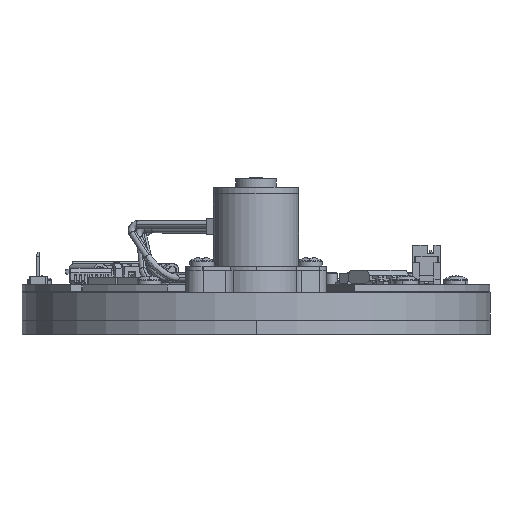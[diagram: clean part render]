
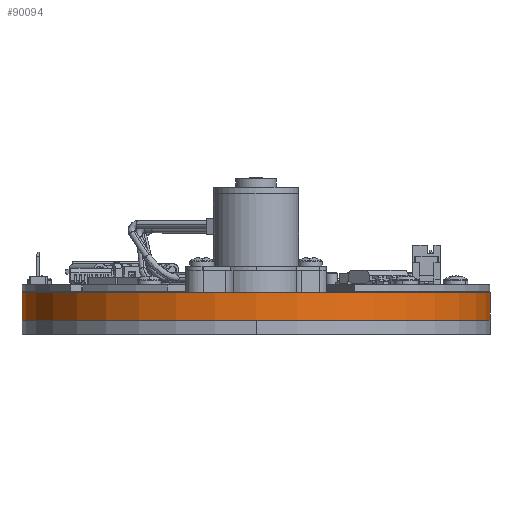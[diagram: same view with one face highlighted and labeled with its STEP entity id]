
A CAD part, front view. The second image highlights one B-rep face of the part: STEP entity #90094.
In plain terms, the highlighted cylindrical face has radius 28.575 mm (diameter 57.15 mm), a partial arc.
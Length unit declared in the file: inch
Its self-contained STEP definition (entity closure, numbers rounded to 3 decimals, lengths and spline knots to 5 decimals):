
#4684 = EDGE_CURVE ( 'NONE', #50985, #17854, #8240, .T. ) ;
#5385 = DIRECTION ( 'NONE',  ( 0., 0., -1. ) ) ;
#8240 = LINE ( 'NONE', #104184, #52264 ) ;
#10333 = CARTESIAN_POINT ( 'NONE',  ( 1.125, 0., 0.133 ) ) ;
#13154 = FACE_OUTER_BOUND ( 'NONE', #63200, .T. ) ;
#17854 = VERTEX_POINT ( 'NONE', #75512 ) ;
#20182 = CYLINDRICAL_SURFACE ( 'NONE', #71199, 1.125 ) ;
#22912 = LINE ( 'NONE', #69945, #64140 ) ;
#23866 = EDGE_CURVE ( 'NONE', #106659, #33614, #22912, .T. ) ;
#26372 = CARTESIAN_POINT ( 'NONE',  ( -1.125, 0., 0. ) ) ;
#28816 = DIRECTION ( 'NONE',  ( 0., 0., 1. ) ) ;
#29569 = ORIENTED_EDGE ( 'NONE', *, *, #76226, .F. ) ;
#33209 = ORIENTED_EDGE ( 'NONE', *, *, #4684, .F. ) ;
#33614 = VERTEX_POINT ( 'NONE', #101182 ) ;
#34094 = DIRECTION ( 'NONE',  ( 0., 0., -1. ) ) ;
#34830 = DIRECTION ( 'NONE',  ( 0., 0., -1. ) ) ;
#48261 = DIRECTION ( 'NONE',  ( 0., 0., 1. ) ) ;
#50985 = VERTEX_POINT ( 'NONE', #26372 ) ;
#52264 = VECTOR ( 'NONE', #48261, 39.37008 ) ;
#53205 = ORIENTED_EDGE ( 'NONE', *, *, #97988, .F. ) ;
#63200 = EDGE_LOOP ( 'NONE', ( #53205, #33209, #29569, #84394 ) ) ;
#64140 = VECTOR ( 'NONE', #5385, 39.37008 ) ;
#69945 = CARTESIAN_POINT ( 'NONE',  ( 1.125, 0., 0.0665 ) ) ;
#71199 = AXIS2_PLACEMENT_3D ( 'NONE', #81223, #34094, #95102 ) ;
#72226 = AXIS2_PLACEMENT_3D ( 'NONE', #75921, #28816, #89897 ) ;
#75512 = CARTESIAN_POINT ( 'NONE',  ( -1.125, 0., 0.133 ) ) ;
#75921 = CARTESIAN_POINT ( 'NONE',  ( 0., 0., 0.133 ) ) ;
#76226 = EDGE_CURVE ( 'NONE', #33614, #50985, #103155, .T. ) ;
#81223 = CARTESIAN_POINT ( 'NONE',  ( 0., 0., 0.133 ) ) ;
#81946 = DIRECTION ( 'NONE',  ( -1., 0., 0. ) ) ;
#83862 = AXIS2_PLACEMENT_3D ( 'NONE', #95826, #34830, #81946 ) ;
#84394 = ORIENTED_EDGE ( 'NONE', *, *, #23866, .F. ) ;
#89897 = DIRECTION ( 'NONE',  ( -1., 0., 0. ) ) ;
#90094 = ADVANCED_FACE ( 'NONE', ( #13154 ), #20182, .T. ) ;
#91578 = CIRCLE ( 'NONE', #72226, 1.125 ) ;
#95102 = DIRECTION ( 'NONE',  ( -1., 0., 0. ) ) ;
#95826 = CARTESIAN_POINT ( 'NONE',  ( 0., 0., 0. ) ) ;
#97988 = EDGE_CURVE ( 'NONE', #17854, #106659, #91578, .T. ) ;
#101182 = CARTESIAN_POINT ( 'NONE',  ( 1.125, 0., 0. ) ) ;
#103155 = CIRCLE ( 'NONE', #83862, 1.125 ) ;
#104184 = CARTESIAN_POINT ( 'NONE',  ( -1.125, 0., 0.0665 ) ) ;
#106659 = VERTEX_POINT ( 'NONE', #10333 ) ;
